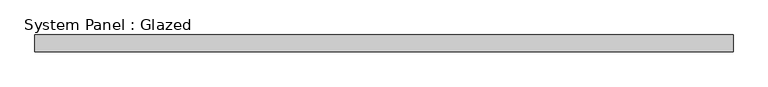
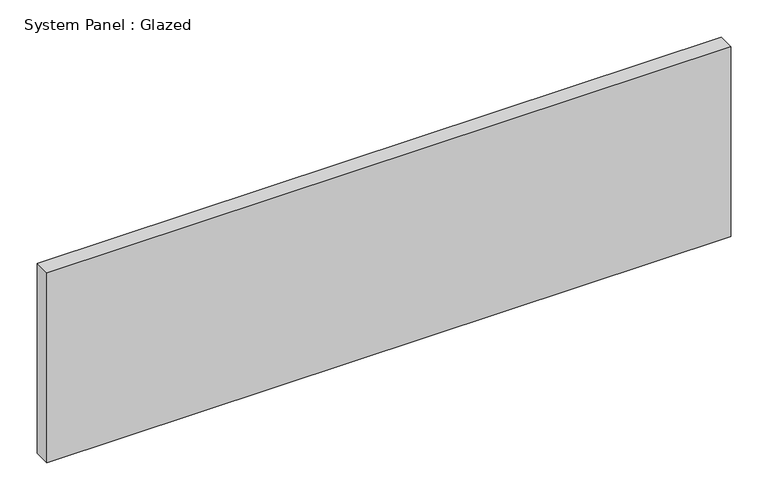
"""IFC4 building model written with IfcOpenShell, lengths in millimetres: plate geometry, System Panel : Glazed."""

from ifc_helpers import new_model, si_unit, origin, origin_with_axes, place, context, project, spatial, polyline, outline, extrude, source, transform, mapped, element, save


def system_panel_glazed_f3b84d7e(model_context):
    return source(origin(), model_context, "Body", "SweptSolid", [
        extrude(outline(polyline([(529.5446429, 19.05), (-529.5446429, 19.05), (-529.5446429, 44.45), (529.5446429, 44.45), (529.5446429, 19.05)])), origin_with_axes(), (0.0, 0.0, 1.0), 310.8709562),
    ])


if __name__ == "__main__":
    model = new_model("IFC4")
    model_context = context("Model", 3, world=origin())
    ifc_project = project(units=[si_unit("LENGTHUNIT", "METRE", prefix="MILLI")], contexts=[model_context])
    site = spatial("IfcSite", under=ifc_project)
    building = spatial("IfcBuilding", under=site)
    placement = place(None, origin())
    system_panel_glazed_shape = system_panel_glazed_f3b84d7e(model_context)
    element("IfcPlate", 1, ObjectType="System Panel : Glazed", at=placement, inside=building, context=model_context, shape_type="MappedRepresentation", body=[
        mapped(system_panel_glazed_shape, transform((0.0, 0.0, 0.0), x_axis=(1.0, 0.0, 0.0), y_axis=(0.0, 1.0, 0.0), z_axis=(0.0, 0.0, 1.0))),
    ])
    save(model, "model.ifc")
